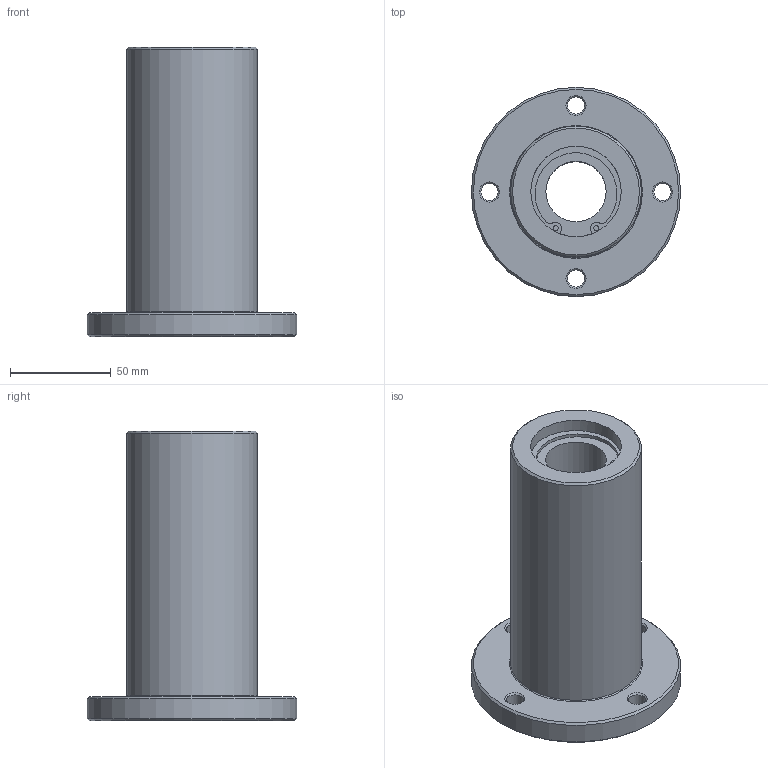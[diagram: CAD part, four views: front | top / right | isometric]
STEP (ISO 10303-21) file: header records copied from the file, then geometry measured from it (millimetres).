
FILE_DESCRIPTION(('STEP AP203'),'1');
FILE_NAME('//192.168.1.1/share/s-4 技術開発/s-4-4_CAD/s-4-4-3_見直し済み/009 修正済み/LCFD-A/LCFD-A_TOP/LCFD-30AVUU.step','2022-02-04T05:55:55',(' '),(' '),'Spatial InterOp 3D',' ',' ');
FILE_SCHEMA(('CONFIG_CONTROL_DESIGN'));
Length unit declared in the file: millimetre
Products named in the file (1): 1
Bounding box: 104 x 104 x 144 mm (x, y, z)
Volume: 420295.1 mm3; surface area: 61066.4 mm2
Topology: 1 solids, 1 shells, 56 faces, 132 edges, 86 vertices
Faces by surface type: cylinder 28, plane 16, cone 11, torus 1
Full cylindrical faces by diameter (mm): 2.5 x4, 8.5 x4, 30 x1, 45 x2, 63.4 x1, 65 x1, 104 x1
Entity records: 1500 total; most frequent: DIRECTION 282, CARTESIAN_POINT 233, ORIENTED_EDGE 196, AXIS2_PLACEMENT_3D 127, EDGE_LOOP 100, EDGE_CURVE 98, VERTEX_POINT 78, FACE_OUTER_BOUND 71
